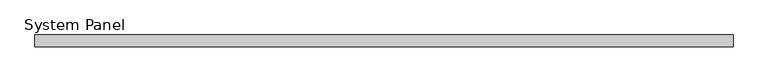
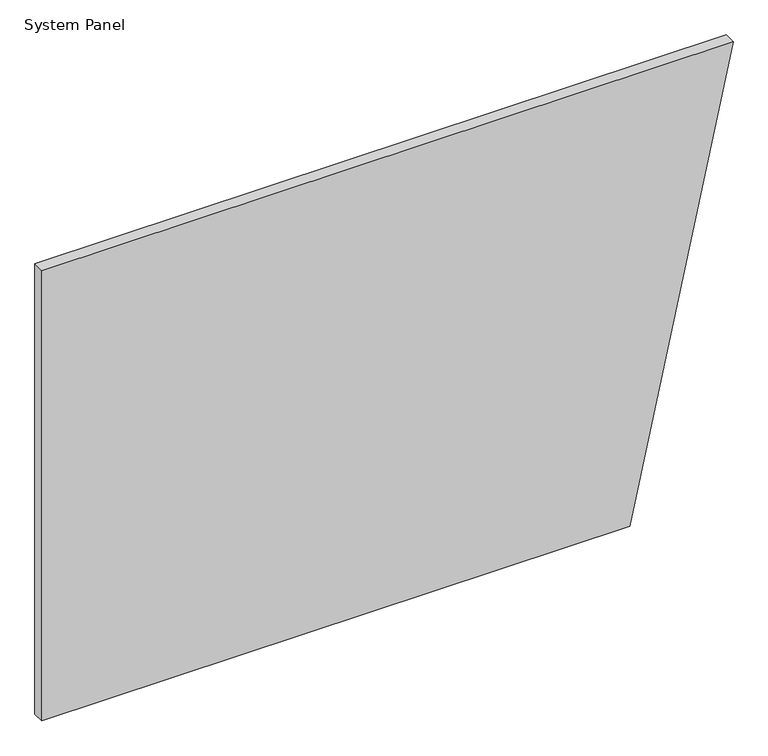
"""IFC4 building model written with IfcOpenShell, lengths in millimetres: plate geometry, System Panel : Purline 25mm Horizontal - Plain RHEA - PUR."""

from ifc_helpers import new_model, si_unit, frame, origin, place, context, project, spatial, polyline, outline, extrude, source, transform, mapped, element, save


def system_panel_7ccdb5df(model_context):
    return source(origin(), model_context, "Body", "SweptSolid", [
        extrude(outline(polyline([(0.0, -726.0895773), (0.0, 508.6965258), (1000.0, 726.0895773), (1000.0, -726.0895773), (0.0, -726.0895773)])), frame((0.0, -25.0, 0.0), z_axis=(0.0, 1.0, 0.0), x_axis=(0.0, 0.0, 1.0)), (0.0, 0.0, 1.0), 25.0),
    ])


if __name__ == "__main__":
    model = new_model("IFC4")
    model_context = context("Model", 3, world=origin())
    ifc_project = project(units=[si_unit("LENGTHUNIT", "METRE", prefix="MILLI")], contexts=[model_context])
    site = spatial("IfcSite", under=ifc_project)
    building = spatial("IfcBuilding", under=site)
    placement = place(None, origin())
    system_panel_shape = system_panel_7ccdb5df(model_context)
    element("IfcPlate", 1, ObjectType="System Panel : Purline 25mm Horizontal - Plain RHEA - PUR", at=placement, inside=building, context=model_context, shape_type="MappedRepresentation", body=[
        mapped(system_panel_shape, transform((0.0, 0.0, 0.0), x_axis=(1.0, 0.0, 0.0), y_axis=(0.0, 1.0, 0.0), z_axis=(0.0, 0.0, 1.0))),
    ])
    save(model, "model.ifc")
